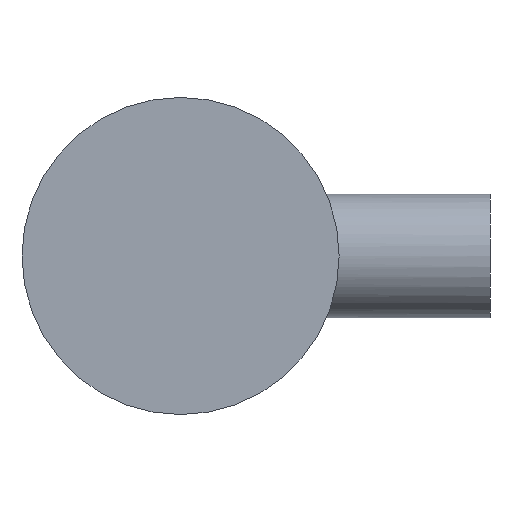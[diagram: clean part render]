
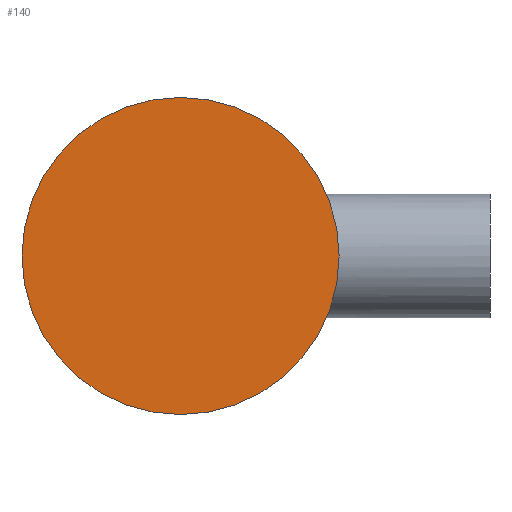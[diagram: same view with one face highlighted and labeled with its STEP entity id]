
A CAD part, left-side view. The second image highlights one B-rep face of the part: STEP entity #140.
In plain terms, the highlighted planar face has unit normal (-1, 0, 0).
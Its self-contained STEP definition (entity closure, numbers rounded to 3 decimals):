
#24 = VERTEX_POINT('',#25);
#25 = CARTESIAN_POINT('',(-21.2,4.1,0.));
#32 = CYLINDRICAL_SURFACE('',#33,4.1);
#33 = AXIS2_PLACEMENT_3D('',#34,#35,#36);
#34 = CARTESIAN_POINT('',(-18.,0.,0.));
#35 = DIRECTION('',(1.,0.,0.));
#36 = DIRECTION('',(0.,1.,0.));
#51 = EDGE_CURVE('',#24,#24,#52,.T.);
#52 = SURFACE_CURVE('',#53,(#58,#65),.PCURVE_S1.);
#53 = CIRCLE('',#54,4.1);
#54 = AXIS2_PLACEMENT_3D('',#55,#56,#57);
#55 = CARTESIAN_POINT('',(-21.2,0.,0.));
#56 = DIRECTION('',(1.,0.,0.));
#57 = DIRECTION('',(0.,1.,0.));
#58 = PCURVE('',#32,#59);
#59 = DEFINITIONAL_REPRESENTATION('',(#60),#64);
#60 = LINE('',#61,#62);
#61 = CARTESIAN_POINT('',(0.,-3.2));
#62 = VECTOR('',#63,1.);
#63 = DIRECTION('',(1.,0.));
#64 = ( GEOMETRIC_REPRESENTATION_CONTEXT(2) 
PARAMETRIC_REPRESENTATION_CONTEXT() REPRESENTATION_CONTEXT('2D SPACE',''
  ) );
#65 = PCURVE('',#66,#71);
#66 = PLANE('',#67);
#67 = AXIS2_PLACEMENT_3D('',#68,#69,#70);
#68 = CARTESIAN_POINT('',(-21.2,0.,0.)
  );
#69 = DIRECTION('',(1.,0.,0.));
#70 = DIRECTION('',(-0.,0.,1.));
#71 = DEFINITIONAL_REPRESENTATION('',(#72),#76);
#72 = CIRCLE('',#73,4.1);
#73 = AXIS2_PLACEMENT_2D('',#74,#75);
#74 = CARTESIAN_POINT('',(0.,0.));
#75 = DIRECTION('',(0.,-1.));
#76 = ( GEOMETRIC_REPRESENTATION_CONTEXT(2) 
PARAMETRIC_REPRESENTATION_CONTEXT() REPRESENTATION_CONTEXT('2D SPACE',''
  ) );
#140 = ADVANCED_FACE('',(#141),#66,.F.);
#141 = FACE_BOUND('',#142,.F.);
#142 = EDGE_LOOP('',(#143));
#143 = ORIENTED_EDGE('',*,*,#51,.T.);
